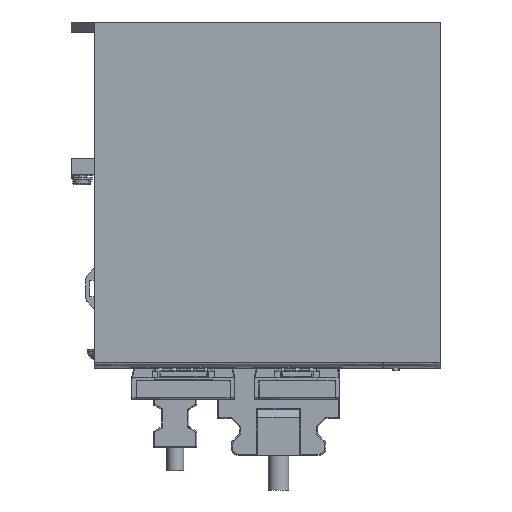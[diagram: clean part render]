
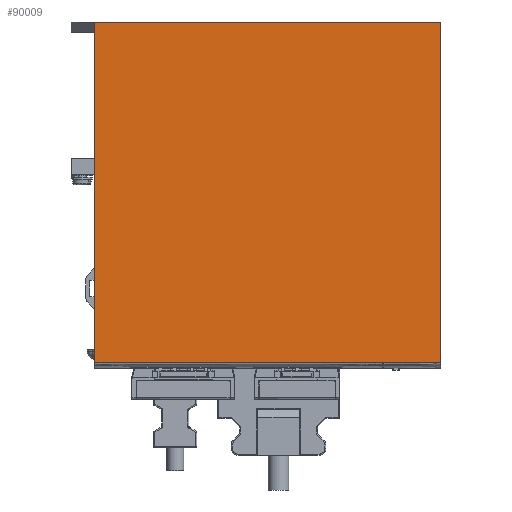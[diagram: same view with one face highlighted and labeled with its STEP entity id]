
A CAD part, front view. The second image highlights one B-rep face of the part: STEP entity #90009.
In plain terms, the highlighted planar face has unit normal (0, -1, 0).
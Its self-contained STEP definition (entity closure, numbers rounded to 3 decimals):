
#2621 = CARTESIAN_POINT ( 'NONE',  ( -150., 0., -81.9 ) ) ;
#6175 = FACE_OUTER_BOUND ( 'NONE', #13463, .T. ) ;
#8612 = DIRECTION ( 'NONE',  ( 0., -1., 0. ) ) ;
#10802 = CARTESIAN_POINT ( 'NONE',  ( 0., 0., -81.9 ) ) ;
#13463 = EDGE_LOOP ( 'NONE', ( #56527, #38396, #144370, #68624 ) ) ;
#17101 = CARTESIAN_POINT ( 'NONE',  ( -150., 0., -81.9 ) ) ;
#25438 = VECTOR ( 'NONE', #146877, 1000. ) ;
#29259 = PLANE ( 'NONE',  #30919 ) ;
#30331 = CARTESIAN_POINT ( 'NONE',  ( 0., 0., -81.9 ) ) ;
#30919 = AXIS2_PLACEMENT_3D ( 'NONE', #53944, #8612, #64986 ) ;
#31443 = VERTEX_POINT ( 'NONE', #43766 ) ;
#38396 = ORIENTED_EDGE ( 'NONE', *, *, #89383, .F. ) ;
#38493 = DIRECTION ( 'NONE',  ( 1., 0., 0. ) ) ;
#43766 = CARTESIAN_POINT ( 'NONE',  ( -150., 0., 65.6 ) ) ;
#49118 = EDGE_CURVE ( 'NONE', #95054, #141039, #102553, .T. ) ;
#53944 = CARTESIAN_POINT ( 'NONE',  ( -150., 0., -81.9 ) ) ;
#56527 = ORIENTED_EDGE ( 'NONE', *, *, #49118, .F. ) ;
#62258 = VECTOR ( 'NONE', #38493, 1000. ) ;
#64986 = DIRECTION ( 'NONE',  ( 0., 0., -1. ) ) ;
#68624 = ORIENTED_EDGE ( 'NONE', *, *, #76366, .T. ) ;
#76366 = EDGE_CURVE ( 'NONE', #147072, #141039, #127372, .T. ) ;
#85862 = VECTOR ( 'NONE', #132501, 1000. ) ;
#88336 = CARTESIAN_POINT ( 'NONE',  ( -150., 0., 65.6 ) ) ;
#89383 = EDGE_CURVE ( 'NONE', #31443, #95054, #94740, .T. ) ;
#90009 = ADVANCED_FACE ( 'NONE', ( #6175 ), #29259, .T. ) ;
#90499 = CARTESIAN_POINT ( 'NONE',  ( -150., 0., -81.9 ) ) ;
#94740 = LINE ( 'NONE', #88336, #62258 ) ;
#95054 = VERTEX_POINT ( 'NONE', #144360 ) ;
#102553 = LINE ( 'NONE', #30331, #125925 ) ;
#102888 = LINE ( 'NONE', #90499, #25438 ) ;
#103912 = EDGE_CURVE ( 'NONE', #31443, #147072, #102888, .T. ) ;
#110872 = DIRECTION ( 'NONE',  ( 0., 0., -1. ) ) ;
#125925 = VECTOR ( 'NONE', #110872, 1000. ) ;
#127372 = LINE ( 'NONE', #2621, #85862 ) ;
#132501 = DIRECTION ( 'NONE',  ( 1., 0., 0. ) ) ;
#141039 = VERTEX_POINT ( 'NONE', #10802 ) ;
#144360 = CARTESIAN_POINT ( 'NONE',  ( 0., 0., 65.6 ) ) ;
#144370 = ORIENTED_EDGE ( 'NONE', *, *, #103912, .T. ) ;
#146877 = DIRECTION ( 'NONE',  ( 0., 0., -1. ) ) ;
#147072 = VERTEX_POINT ( 'NONE', #17101 ) ;
